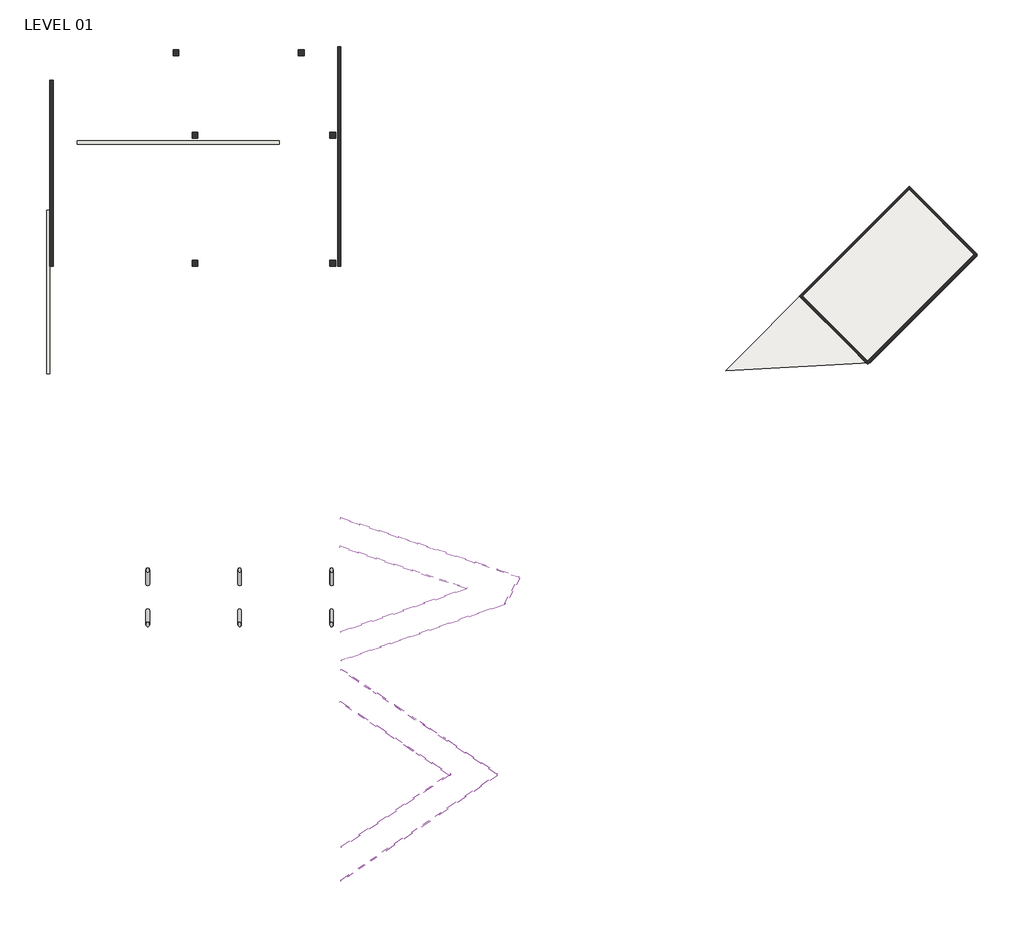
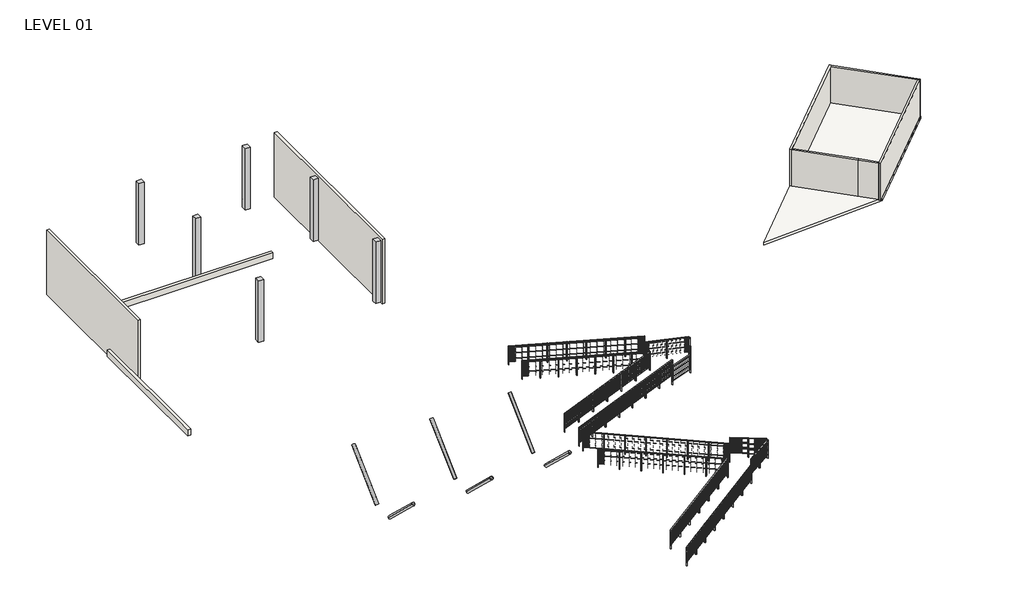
# One storey: 13 railings, 12 columns, 9 walls, 1 slab.
"""IFC4 building model written with IfcOpenShell, lengths in millimetres."""

from ifc_helpers import new_model, si_unit, point, frame, frame_2d, origin, place, context, project, spatial, polyline, circle_curve, trimmed, segment, composite_curve, outline, extrude, faceted_brep, transform, mapped, element, save
from components import column_f3eec772, cable_guard_rail_r1_da11520e, cable_guard_rail_r1_a0de9ee8, cable_guard_rail_r1_49ae5d48, cable_guard_rail_r1_27c920db, cable_guard_rail_r1_b3929646, cable_guard_rail_r1_dc42db87, cable_guard_rail_r1_10325f27, cable_guard_rail_r1_54c82a32, cable_guard_rail_r1_774e3085, cable_guard_rail_r1_89b2fc0e, cable_guard_rail_r1_8ac2c322, cable_guard_rail_r1_ed89bf40, cable_guard_rail_r1_a56fe9ce

model = new_model("IFC4")

# Units and contexts
model_context = context("Model", 3, world=origin())
ifc_project = project(units=[si_unit("LENGTHUNIT", "METRE", prefix="MILLI")], contexts=[model_context])

# Site, building, storey
site = spatial("IfcSite", under=ifc_project)
building = spatial("IfcBuilding", under=site)
storey = spatial("IfcBuildingStorey", under=building, Name="LEVEL 01", Elevation=290080.7)

# Columns
placement = place(None, origin())
element("IfcColumn", 1, ObjectType="HSS-Round Hollow Structural Section-Column : HSS8.625X0.500", at=placement, inside=storey, context=model_context, shape_type="SweptSolid", body=[
    extrude(outline(composite_curve([segment(trimmed(circle_curve(frame_2d((0.0, -109.5375)), 109.5375), [point((0.0, -219.075))], [point((0.0, 0.0))], False, "CARTESIAN"), True, "CONTINUOUS"), segment(trimmed(circle_curve(frame_2d((0.0, -109.5375)), 109.5375), [point((0.0, 0.0))], [point((0.0, -219.075))], False, "CARTESIAN"), True, "CONTINUOUS")], self_intersect=False), holes=[composite_curve([segment(trimmed(circle_curve(frame_2d((0.0, -109.5375)), 97.7265), [point((0.0, -207.264))], [point((0.0, -11.811))], True, "CARTESIAN"), True, "CONTINUOUS"), segment(trimmed(circle_curve(frame_2d((0.0, -109.5375)), 97.7265), [point((0.0, -11.811))], [point((0.0, -207.264))], True, "CARTESIAN"), True, "CONTINUOUS")], self_intersect=False)]), frame((28384.7129964, 187937.204816, 290486.1057645), z_axis=(0.0, 0.7251659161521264, 0.688574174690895), x_axis=(0.0, 0.688574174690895, -0.7251659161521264)), (0.0, 0.0, 1.0), 3964.4029378),
])
element("IfcColumn", 2, ObjectType="HSS-Round Hollow Structural Section-Column : HSS8.625X0.500", at=placement, inside=storey, context=model_context, shape_type="SweptSolid", body=[
    extrude(outline(composite_curve([segment(trimmed(circle_curve(frame_2d((0.0, -109.5375)), 109.5375), [point((0.0, -219.075))], [point((0.0, 0.0))], False, "CARTESIAN"), True, "CONTINUOUS"), segment(trimmed(circle_curve(frame_2d((0.0, -109.5375)), 109.5375), [point((0.0, 0.0))], [point((0.0, -219.075))], False, "CARTESIAN"), True, "CONTINUOUS")], self_intersect=False), holes=[composite_curve([segment(trimmed(circle_curve(frame_2d((0.0, -109.5375)), 97.7265), [point((0.0, -207.264))], [point((0.0, -11.811))], True, "CARTESIAN"), True, "CONTINUOUS"), segment(trimmed(circle_curve(frame_2d((0.0, -109.5375)), 97.7265), [point((0.0, -11.811))], [point((0.0, -207.264))], True, "CARTESIAN"), True, "CONTINUOUS")], self_intersect=False)]), frame((28603.7879964, 186387.3824451, 290486.1057645), z_axis=(0.0, -0.7251659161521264, 0.688574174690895), x_axis=(0.0, -0.688574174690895, -0.7251659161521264)), (0.0, 0.0, 1.0), 3964.4029378),
])
element("IfcColumn", 3, ObjectType="HSS-Round Hollow Structural Section-Column : HSS8.625X0.500", at=placement, inside=storey, context=model_context, shape_type="SweptSolid", body=[
    extrude(outline(composite_curve([segment(trimmed(circle_curve(frame_2d((0.0, -109.5375)), 109.5375), [point((0.0, -219.075))], [point((0.0, 0.0))], False, "CARTESIAN"), True, "CONTINUOUS"), segment(trimmed(circle_curve(frame_2d((0.0, -109.5375)), 109.5375), [point((0.0, 0.0))], [point((0.0, -219.075))], False, "CARTESIAN"), True, "CONTINUOUS")], self_intersect=False), holes=[composite_curve([segment(trimmed(circle_curve(frame_2d((0.0, -109.5375)), 97.7265), [point((0.0, -207.264))], [point((0.0, -11.811))], True, "CARTESIAN"), True, "CONTINUOUS"), segment(trimmed(circle_curve(frame_2d((0.0, -109.5375)), 97.7265), [point((0.0, -11.811))], [point((0.0, -207.264))], True, "CARTESIAN"), True, "CONTINUOUS")], self_intersect=False)]), frame((33871.1129964, 187937.204816, 290486.1057645), z_axis=(0.0, 0.7251659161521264, 0.688574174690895), x_axis=(0.0, 0.688574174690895, -0.7251659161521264)), (0.0, 0.0, 1.0), 3964.4029378),
])
element("IfcColumn", 4, ObjectType="HSS-Round Hollow Structural Section-Column : HSS8.625X0.500", at=placement, inside=storey, context=model_context, shape_type="SweptSolid", body=[
    extrude(outline(composite_curve([segment(trimmed(circle_curve(frame_2d((0.0, -109.5375)), 109.5375), [point((0.0, -219.075))], [point((0.0, 0.0))], False, "CARTESIAN"), True, "CONTINUOUS"), segment(trimmed(circle_curve(frame_2d((0.0, -109.5375)), 109.5375), [point((0.0, 0.0))], [point((0.0, -219.075))], False, "CARTESIAN"), True, "CONTINUOUS")], self_intersect=False), holes=[composite_curve([segment(trimmed(circle_curve(frame_2d((0.0, -109.5375)), 97.7265), [point((0.0, -207.264))], [point((0.0, -11.811))], True, "CARTESIAN"), True, "CONTINUOUS"), segment(trimmed(circle_curve(frame_2d((0.0, -109.5375)), 97.7265), [point((0.0, -11.811))], [point((0.0, -207.264))], True, "CARTESIAN"), True, "CONTINUOUS")], self_intersect=False)]), frame((34090.1879964, 186387.3824451, 290486.1057645), z_axis=(0.0, -0.7251659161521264, 0.688574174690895), x_axis=(0.0, -0.688574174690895, -0.7251659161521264)), (0.0, 0.0, 1.0), 3964.4029378),
])
element("IfcColumn", 5, ObjectType="HSS-Round Hollow Structural Section-Column : HSS8.625X0.500", at=placement, inside=storey, context=model_context, shape_type="SweptSolid", body=[
    extrude(outline(composite_curve([segment(trimmed(circle_curve(frame_2d((0.0, -109.5375)), 109.5375), [point((0.0, -219.075))], [point((0.0, 0.0))], False, "CARTESIAN"), True, "CONTINUOUS"), segment(trimmed(circle_curve(frame_2d((0.0, -109.5375)), 109.5375), [point((0.0, 0.0))], [point((0.0, -219.075))], False, "CARTESIAN"), True, "CONTINUOUS")], self_intersect=False), holes=[composite_curve([segment(trimmed(circle_curve(frame_2d((0.0, -109.5375)), 97.7265), [point((0.0, -207.264))], [point((0.0, -11.811))], True, "CARTESIAN"), True, "CONTINUOUS"), segment(trimmed(circle_curve(frame_2d((0.0, -109.5375)), 97.7265), [point((0.0, -11.811))], [point((0.0, -207.264))], True, "CARTESIAN"), True, "CONTINUOUS")], self_intersect=False)]), frame((39357.5129964, 187937.204816, 290486.1057645), z_axis=(0.0, 0.7251659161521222, 0.6885741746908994), x_axis=(0.0, 0.6885741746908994, -0.7251659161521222)), (0.0, 0.0, 1.0), 3964.4029378),
])
element("IfcColumn", 6, ObjectType="HSS-Round Hollow Structural Section-Column : HSS8.625X0.500", at=placement, inside=storey, context=model_context, shape_type="SweptSolid", body=[
    extrude(outline(composite_curve([segment(trimmed(circle_curve(frame_2d((0.0, -109.5375)), 109.5375), [point((0.0, -219.075))], [point((0.0, 0.0))], False, "CARTESIAN"), True, "CONTINUOUS"), segment(trimmed(circle_curve(frame_2d((0.0, -109.5375)), 109.5375), [point((0.0, 0.0))], [point((0.0, -219.075))], False, "CARTESIAN"), True, "CONTINUOUS")], self_intersect=False), holes=[composite_curve([segment(trimmed(circle_curve(frame_2d((0.0, -109.5375)), 97.7265), [point((0.0, -207.264))], [point((0.0, -11.811))], True, "CARTESIAN"), True, "CONTINUOUS"), segment(trimmed(circle_curve(frame_2d((0.0, -109.5375)), 97.7265), [point((0.0, -11.811))], [point((0.0, -207.264))], True, "CARTESIAN"), True, "CONTINUOUS")], self_intersect=False)]), frame((39576.5879964, 186387.3824451, 290486.1057645), z_axis=(0.0, -0.7251659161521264, 0.688574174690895), x_axis=(0.0, -0.688574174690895, -0.7251659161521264)), (0.0, 0.0, 1.0), 3964.4029378),
])
element("IfcColumn", 7, ObjectType="Rectangular Column1 : 14\"x14\"", at=placement, inside=storey, context=model_context, shape_type="SweptSolid", body=[
    extrude(outline(polyline([(219861.1613196, 290080.7), (219505.5613196, 290080.7), (219505.5613196, 294652.7), (219861.1613196, 294652.7), (219861.1613196, 294347.9), (219851.1664832, 294347.9), (219851.1664832, 290690.3), (219861.1613196, 290690.3), (219861.1613196, 290080.7)])), frame((30002.1680497, 0.0, 0.0), z_axis=(1.0, 0.0, 0.0), x_axis=(0.0, 1.0, 0.0)), (0.0, 0.0, 1.0), 355.6),
])
element("IfcColumn", 8, ObjectType="Rectangular Column1 : 14\"x14\"", at=placement, inside=storey, context=model_context, shape_type="SweptSolid", body=[
    extrude(outline(polyline([(219861.1613196, 290080.7), (219505.5613196, 290080.7), (219505.5613196, 294652.7), (219861.1613196, 294652.7), (219861.1613196, 294347.9), (219851.1664832, 294347.9), (219851.1664832, 290690.3), (219861.1613196, 290690.3), (219861.1613196, 290080.7)])), frame((37469.7680497, 0.0, 0.0), z_axis=(1.0, 0.0, 0.0), x_axis=(0.0, 1.0, 0.0)), (0.0, 0.0, 1.0), 355.6),
])
element("IfcColumn", 9, ObjectType="Rectangular Column1 : 14\"x14\"", at=placement, inside=storey, context=model_context, shape_type="SweptSolid", body=[
    extrude(outline(polyline([(31493.2615466, 207293.760969), (31493.2615466, 206938.160969), (31137.6615466, 206938.160969), (31137.6615466, 207293.760969), (31493.2615466, 207293.760969)])), frame((0.0, 0.0, 290080.7), z_axis=(0.0, 0.0, 1.0), x_axis=(1.0, 0.0, 0.0)), (0.0, 0.0, 1.0), 4572.0),
])
column_shape = column_f3eec772(model_context)
element("IfcColumn", 10, ObjectType="Rectangular Column1 : 14\"x14\"", at=placement, inside=storey, context=model_context, shape_type="MappedRepresentation", body=[
    mapped(column_shape, transform((31315.4615466, 214735.960969, 0.0), x_axis=(1.0, 0.0, 0.0), y_axis=(0.0, 1.0, 0.0), z_axis=(0.0, 0.0, 1.0))),
])
element("IfcColumn", 11, ObjectType="Rectangular Column1 : 14\"x14\"", at=placement, inside=storey, context=model_context, shape_type="MappedRepresentation", body=[
    mapped(column_shape, transform((39545.0615466, 214735.960969, 0.0), x_axis=(1.0, 0.0, 0.0), y_axis=(0.0, 1.0, 0.0), z_axis=(0.0, 0.0, 1.0))),
])
element("IfcColumn", 12, ObjectType="Rectangular Column1 : 14\"x14\"", at=placement, inside=storey, context=model_context, shape_type="MappedRepresentation", body=[
    mapped(column_shape, transform((39545.0615466, 207115.960969, 0.0), x_axis=(1.0, 0.0, 0.0), y_axis=(0.0, 1.0, 0.0), z_axis=(0.0, 0.0, 1.0))),
])

# Railings
cable_guard_rail_r1_shape = cable_guard_rail_r1_da11520e(model_context)
element("IfcRailing", 13, ObjectType="Cable Guard Rail - R1", at=placement, inside=storey, context=model_context, shape_type="MappedRepresentation", body=[
    mapped(cable_guard_rail_r1_shape, transform((0.0, 0.0, 0.0), x_axis=(1.0, 0.0, 0.0), y_axis=(0.0, 1.0, 0.0), z_axis=(0.0, 0.0, 1.0))),
])
cable_guard_rail_r1_2_shape = cable_guard_rail_r1_a0de9ee8(model_context)
element("IfcRailing", 14, ObjectType="Cable Guard Rail - R1", at=placement, inside=storey, context=model_context, shape_type="MappedRepresentation", body=[
    mapped(cable_guard_rail_r1_2_shape, transform((0.0, 0.0, 0.0), x_axis=(1.0, 0.0, 0.0), y_axis=(0.0, 1.0, 0.0), z_axis=(0.0, 0.0, 1.0))),
])
cable_guard_rail_r1_3_shape = cable_guard_rail_r1_49ae5d48(model_context)
element("IfcRailing", 15, ObjectType="Cable Guard Rail - R1", at=placement, inside=storey, context=model_context, shape_type="MappedRepresentation", body=[
    mapped(cable_guard_rail_r1_3_shape, transform((0.0, 0.0, 0.0), x_axis=(1.0, 0.0, 0.0), y_axis=(0.0, 1.0, 0.0), z_axis=(0.0, 0.0, 1.0))),
])
cable_guard_rail_r1_4_shape = cable_guard_rail_r1_27c920db(model_context)
element("IfcRailing", 16, ObjectType="Cable Guard Rail - R1", at=placement, inside=storey, context=model_context, shape_type="MappedRepresentation", body=[
    mapped(cable_guard_rail_r1_4_shape, transform((0.0, 0.0, 0.0), x_axis=(1.0, 0.0, 0.0), y_axis=(0.0, 1.0, 0.0), z_axis=(0.0, 0.0, 1.0))),
])
cable_guard_rail_r1_5_shape = cable_guard_rail_r1_b3929646(model_context)
element("IfcRailing", 17, ObjectType="Cable Guard Rail - R1", at=placement, inside=storey, context=model_context, shape_type="MappedRepresentation", body=[
    mapped(cable_guard_rail_r1_5_shape, transform((0.0, 0.0, 0.0), x_axis=(1.0, 0.0, 0.0), y_axis=(0.0, 1.0, 0.0), z_axis=(0.0, 0.0, 1.0))),
])
cable_guard_rail_r1_6_shape = cable_guard_rail_r1_dc42db87(model_context)
element("IfcRailing", 18, ObjectType="Cable Guard Rail - R1", at=placement, inside=storey, context=model_context, shape_type="MappedRepresentation", body=[
    mapped(cable_guard_rail_r1_6_shape, transform((0.0, 0.0, 0.0), x_axis=(1.0, 0.0, 0.0), y_axis=(0.0, 1.0, 0.0), z_axis=(0.0, 0.0, 1.0))),
])
cable_guard_rail_r1_7_shape = cable_guard_rail_r1_10325f27(model_context)
element("IfcRailing", 19, ObjectType="Cable Guard Rail - R1", at=placement, inside=storey, context=model_context, shape_type="MappedRepresentation", body=[
    mapped(cable_guard_rail_r1_7_shape, transform((0.0, 0.0, 0.0), x_axis=(1.0, 0.0, 0.0), y_axis=(0.0, 1.0, 0.0), z_axis=(0.0, 0.0, 1.0))),
])
cable_guard_rail_r1_8_shape = cable_guard_rail_r1_54c82a32(model_context)
element("IfcRailing", 20, ObjectType="Cable Guard Rail - R1", at=placement, inside=storey, context=model_context, shape_type="MappedRepresentation", body=[
    mapped(cable_guard_rail_r1_8_shape, transform((0.0, 0.0, 0.0), x_axis=(1.0, 0.0, 0.0), y_axis=(0.0, 1.0, 0.0), z_axis=(0.0, 0.0, 1.0))),
])
cable_guard_rail_r1_9_shape = cable_guard_rail_r1_774e3085(model_context)
element("IfcRailing", 21, ObjectType="Cable Guard Rail - R1", at=placement, inside=storey, context=model_context, shape_type="MappedRepresentation", body=[
    mapped(cable_guard_rail_r1_9_shape, transform((0.0, 0.0, 0.0), x_axis=(1.0, 0.0, 0.0), y_axis=(0.0, 1.0, 0.0), z_axis=(0.0, 0.0, 1.0))),
])
cable_guard_rail_r1_10_shape = cable_guard_rail_r1_89b2fc0e(model_context)
element("IfcRailing", 22, ObjectType="Cable Guard Rail - R1", at=placement, inside=storey, context=model_context, shape_type="MappedRepresentation", body=[
    mapped(cable_guard_rail_r1_10_shape, transform((0.0, 0.0, 0.0), x_axis=(1.0, 0.0, 0.0), y_axis=(0.0, 1.0, 0.0), z_axis=(0.0, 0.0, 1.0))),
])
cable_guard_rail_r1_11_shape = cable_guard_rail_r1_8ac2c322(model_context)
element("IfcRailing", 23, ObjectType="Cable Guard Rail - R1", at=placement, inside=storey, context=model_context, shape_type="MappedRepresentation", body=[
    mapped(cable_guard_rail_r1_11_shape, transform((0.0, 0.0, 0.0), x_axis=(1.0, 0.0, 0.0), y_axis=(0.0, 1.0, 0.0), z_axis=(0.0, 0.0, 1.0))),
])
cable_guard_rail_r1_12_shape = cable_guard_rail_r1_ed89bf40(model_context)
element("IfcRailing", 24, ObjectType="Cable Guard Rail - R1", at=placement, inside=storey, context=model_context, shape_type="MappedRepresentation", body=[
    mapped(cable_guard_rail_r1_12_shape, transform((0.0, 0.0, 0.0), x_axis=(1.0, 0.0, 0.0), y_axis=(0.0, 1.0, 0.0), z_axis=(0.0, 0.0, 1.0))),
])
cable_guard_rail_r1_13_shape = cable_guard_rail_r1_a56fe9ce(model_context)
element("IfcRailing", 25, ObjectType="Cable Guard Rail - R1", at=placement, inside=storey, context=model_context, shape_type="MappedRepresentation", body=[
    mapped(cable_guard_rail_r1_13_shape, transform((0.0, 0.0, 0.0), x_axis=(1.0, 0.0, 0.0), y_axis=(0.0, 1.0, 0.0), z_axis=(0.0, 0.0, 1.0))),
])

# Slab
element("IfcSlab", 26, ObjectType="6\" Concrete Slab", at=placement, inside=storey, context=model_context, shape_type="SweptSolid", body=[
    extrude(outline(polyline([(63014.8270791, 200690.370075), (73925.9475916, 211669.9443187), (78027.6597962, 207566.957886), (71628.7983231, 201170.0836506), (63014.8270791, 200690.370075)])), frame((0.0, 0.0, 289966.4), z_axis=(0.0, 0.0, 1.0), x_axis=(1.0, 0.0, 0.0)), (0.0, 0.0, 1.0), 152.4),
])

# Walls
element("IfcWall", 27, ObjectType="(WC-1) Wood Wall Cladding", at=placement, inside=storey, context=model_context, shape_type="Brep", body=[
    faceted_brep([(73961.8741878, 211705.8597949, 290080.7), (67400.7817781, 205146.7981688, 290080.7), (67400.7817781, 205146.7981688, 292823.9), (73961.8741878, 211705.8597949, 292823.9), (74056.1522317, 211611.5524625, 290080.7), (74056.1522317, 211611.5524625, 292823.9), (73961.8449486, 211517.2743693, 292823.9), (67589.3671052, 205146.7689296, 292823.9), (67495.0598221, 205052.4908364, 292823.9), (67495.0598221, 205052.4908364, 290080.7), (67589.3671052, 205146.7689296, 290080.7), (73961.8449486, 211517.2743693, 290080.7)], [[[0, 1, 2, 3]], [[4, 5, 6, 7, 8, 9, 10, 11]], [[1, 0, 4, 11, 10, 9]], [[3, 2, 8, 7, 6, 5]], [[0, 3, 5, 4]], [[2, 1, 9, 8]]]),
])
element("IfcWall", 28, ObjectType="(WC-1) Wood Wall Cladding", at=placement, inside=storey, context=model_context, shape_type="Brep", body=[
    faceted_brep([(78034.5372602, 207631.9315078, 290080.7), (74056.1522317, 211611.5524625, 290080.7), (74056.1522317, 211611.5524625, 292823.9), (78034.5372602, 207631.9315078, 292823.9), (77940.2299279, 207537.6534639, 290080.7), (77940.2299279, 207537.6534639, 292823.9), (77845.951884, 207631.9607962, 292823.9), (73961.8449486, 211517.2743693, 292823.9), (73961.8449486, 211517.2743693, 290080.7), (77845.951884, 207631.9607962, 290080.7)], [[[0, 1, 2, 3]], [[4, 5, 6, 7, 8, 9]], [[1, 0, 4, 9, 8]], [[3, 2, 7, 6, 5]], [[2, 1, 8, 7]], [[0, 3, 5, 4]]]),
])
element("IfcWall", 29, ObjectType="(WC-1) Wood Wall Cladding", at=placement, inside=storey, context=model_context, shape_type="Brep", body=[
    faceted_brep([(71473.4414235, 201072.8733098, 290080.7), (77940.2299279, 207537.6534639, 290080.7), (77940.2299279, 207537.6534639, 292823.9), (71473.4414235, 201072.8733098, 292823.9), (71379.1633796, 201167.1806422, 290080.7), (71379.1633796, 201167.1806422, 292823.9), (71473.470712, 201261.4586861, 292823.9), (77845.951884, 207631.9607962, 292823.9), (77845.951884, 207631.9607962, 290080.7), (71473.470712, 201261.4586861, 290080.7)], [[[0, 1, 2, 3]], [[4, 5, 6, 7, 8, 9]], [[1, 0, 4, 9, 8]], [[3, 2, 7, 6, 5]], [[2, 1, 8, 7]], [[0, 3, 5, 4]]]),
])
element("IfcWall", 30, ObjectType="(WC-1) Wood Wall Cladding", at=placement, inside=storey, context=model_context, shape_type="SweptSolid", body=[
    extrude(outline(polyline([(70550.8927108, 202184.3232956), (71473.470712, 201261.4586861), (71379.1633796, 201167.1806422), (70456.5853785, 202090.0452517), (70550.8927108, 202184.3232956)])), frame((0.0, 0.0, 290080.7), z_axis=(0.0, 0.0, 1.0), x_axis=(1.0, 0.0, 0.0)), (0.0, 0.0, 1.0), 2743.2),
])
element("IfcWall", 31, ObjectType="(WC-1) Wood Wall Cladding", at=placement, inside=storey, context=model_context, shape_type="SweptSolid", body=[
    extrude(outline(polyline([(67589.3671052, 205146.7689296), (70550.8927108, 202184.3232956), (70456.5853785, 202090.0452517), (67495.0598221, 205052.4908364), (67589.3671052, 205146.7689296)])), frame((0.0, 0.0, 290080.7), z_axis=(0.0, 0.0, 1.0), x_axis=(1.0, 0.0, 0.0)), (0.0, 0.0, 1.0), 2743.2),
])
element("IfcWall", 32, ObjectType="01-MASONRY-8", at=placement, inside=storey, context=model_context, shape_type="SweptSolid", body=[
    extrude(outline(polyline([(22653.1654546, 206938.160969), (22653.1654546, 218022.3664832), (22846.8404546, 218022.3664832), (22846.8404546, 206938.160969), (22653.1654546, 206938.160969)])), frame((0.0, 0.0, 289902.9), z_axis=(0.0, 0.0, 1.0), x_axis=(1.0, 0.0, 0.0)), (0.0, 0.0, 1.0), 4775.2),
])
element("IfcWall", 33, ObjectType="01-MASONRY-8", at=placement, inside=storey, context=model_context, shape_type="Brep", body=[
    faceted_brep([(39823.5654546, 220044.8414832, 289902.9), (39823.5654546, 206938.160969, 289902.9), (39823.5654546, 206938.160969, 294678.1), (39823.5654546, 220044.8414832, 294678.1), (39823.5654546, 220044.8414832, 294347.9), (39823.5654546, 220044.8414832, 290690.3), (40017.2404546, 220044.8414832, 289902.9), (40017.2404546, 220044.8414832, 294678.1), (40017.2404546, 206938.160969, 294678.1), (40017.2404546, 206938.160969, 289902.9)], [[[0, 1, 2, 3, 4, 5]], [[6, 7, 8, 9]], [[1, 0, 6, 9]], [[2, 1, 9, 8]], [[3, 2, 8, 7]], [[0, 5, 4, 3, 7, 6]]]),
])
element("IfcWall", 34, ObjectType="8\" CONC WALL", at=placement, inside=storey, context=model_context, shape_type="SweptSolid", body=[
    extrude(outline(polyline([(22653.1654546, 210263.4191058), (22653.1654546, 200508.6848639), (22449.9654546, 200508.6848639), (22449.9654546, 210263.4191058), (22653.1654546, 210263.4191058)])), frame((0.0, 0.0, 290080.7), z_axis=(0.0, 0.0, 1.0), x_axis=(1.0, 0.0, 0.0)), (0.0, 0.0, 1.0), 457.2),
])
element("IfcWall", 35, ObjectType="8\" CONC WALL", at=placement, inside=storey, context=model_context, shape_type="SweptSolid", body=[
    extrude(outline(polyline([(24269.2404546, 214413.6633631), (36341.0720743, 214413.6633631), (36341.0720743, 214210.4633631), (24269.2404546, 214210.4633631), (24269.2404546, 214413.6633631)])), frame((0.0, 0.0, 290080.7), z_axis=(0.0, 0.0, 1.0), x_axis=(1.0, 0.0, 0.0)), (0.0, 0.0, 1.0), 457.2),
])

save(model, "model.ifc")
